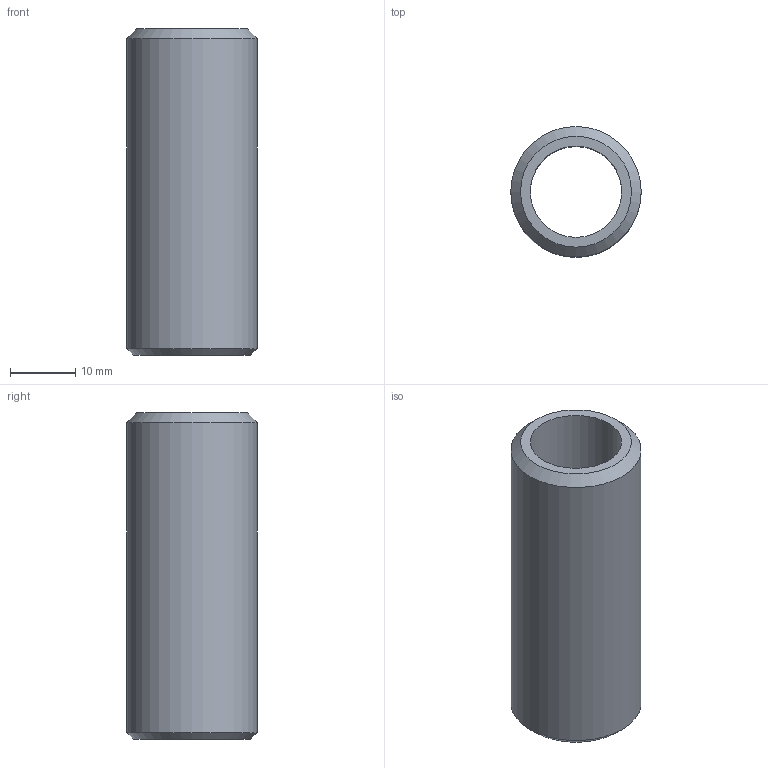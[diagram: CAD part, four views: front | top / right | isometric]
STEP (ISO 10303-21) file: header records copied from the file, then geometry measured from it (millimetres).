
FILE_DESCRIPTION(/* description */ ('','CAx-IF Rec.Pracs.---Representation and Presentation of Product Manufacturing Information (PMI)---4.0---2014-10-13'),/* implementation_level */ '2;1');
FILE_NAME(/* name */ 'rod50.step',/* time_stamp */ '2025-03-18T20:44:40+01:00',/* author */ (''),/* organization */ (''),/* preprocessor_version */ 'ST-DEVELOPER v20',/* originating_system */ 'Autodesk Translation Framework v13.20.0.188',/* authorisation */ '');
FILE_SCHEMA (('AP242_MANAGED_MODEL_BASED_3D_ENGINEERING_MIM_LF { 1 0 10303 442 1 1 4 }'));
Length unit declared in the file: millimetre
Products named in the file (1): rod
Bounding box: 20 x 20 x 50 mm (x, y, z)
Volume: 7913.5 mm3; surface area: 5564.9 mm2
Topology: 1 solids, 1 shells, 6 faces, 10 edges, 6 vertices
Faces by surface type: cylinder 2, cone 2, plane 2
Full cylindrical faces by diameter (mm): 14 x1, 20 x1
Entity records: 181 total; most frequent: DIRECTION 30, CARTESIAN_POINT 23, ORIENTED_EDGE 20, AXIS2_PLACEMENT_3D 13, EDGE_CURVE 10, EDGE_LOOP 8, FACE_OUTER_BOUND 6, CIRCLE 6
